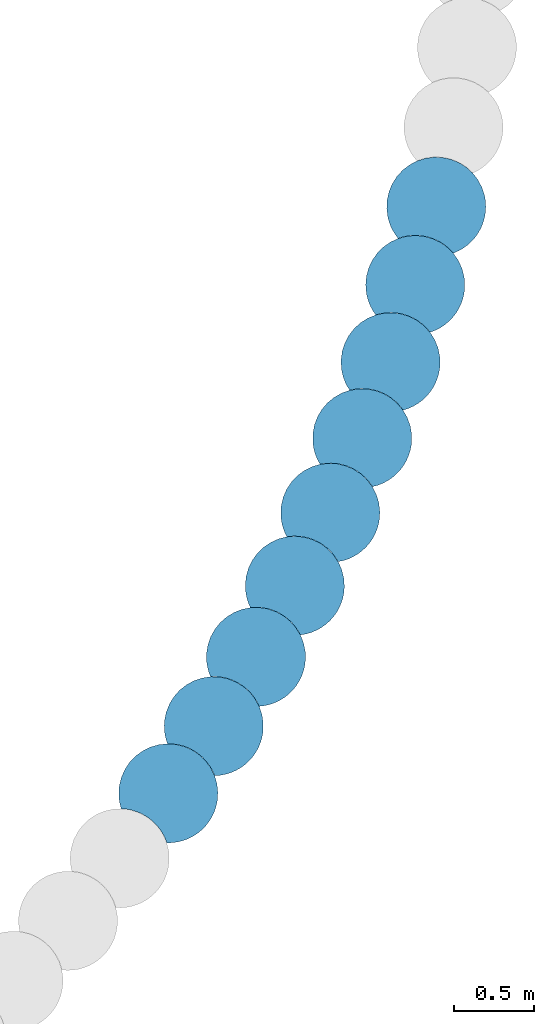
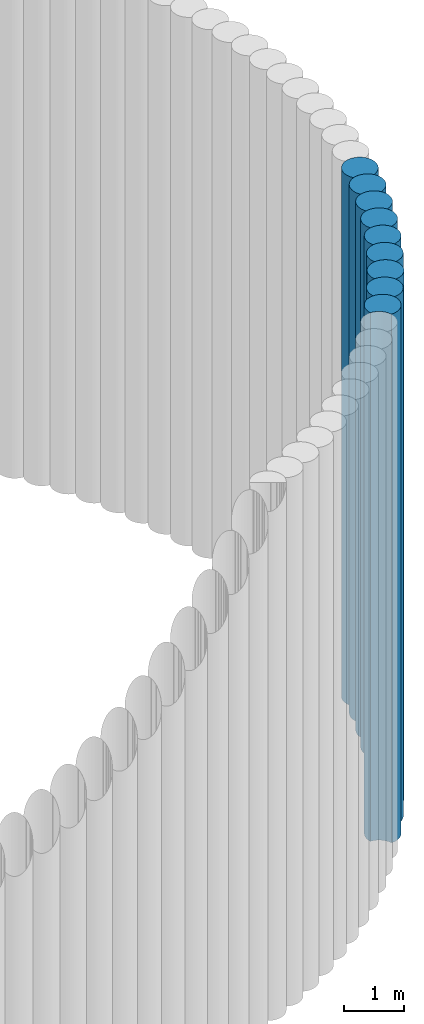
# One storey, part 8 of 16: 9 slabs.
"""IFC2X3 building model written with IfcOpenShell, lengths in centimetres."""

from ifc_helpers import new_model, entity, si_unit, converted_unit, derived_unit, direction, frame, frame_2d, origin, place, context, subcontext, project, spatial, polyline, circle_curve, parameter, trimmed, segment, composite_curve, outline, extrude, material, element, save


model = new_model("IFC2X3")

# Units and contexts
model_context = context("Model", 3, precision=0.001, world=origin(), true_north=direction((6.12303176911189e-17, 1.0)))
body_context = subcontext(model_context, "Body", "Model", "MODEL_VIEW")
ifc_project = project(units=[si_unit("LENGTHUNIT", "METRE", prefix="CENTI"), si_unit("AREAUNIT", "SQUARE_METRE"), si_unit("VOLUMEUNIT", "CUBIC_METRE"), converted_unit("PLANEANGLEUNIT", "DEGREE", entity("IfcRatioMeasure", 0.0174532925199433), si_unit("PLANEANGLEUNIT", "RADIAN"), dimensions=[0, 0, 0, 0, 0, 0, 0]), si_unit("MASSUNIT", "GRAM", prefix="KILO"), derived_unit("MASSDENSITYUNIT", [(si_unit("MASSUNIT", "GRAM", prefix="KILO"), 1), (si_unit("LENGTHUNIT", "METRE"), -3)]), si_unit("TIMEUNIT", "SECOND"), si_unit("FREQUENCYUNIT", "HERTZ"), si_unit("THERMODYNAMICTEMPERATUREUNIT", "DEGREE_CELSIUS"), derived_unit("THERMALTRANSMITTANCEUNIT", [(si_unit("MASSUNIT", "GRAM", prefix="KILO"), 1), (si_unit("THERMODYNAMICTEMPERATUREUNIT", "KELVIN"), -1), (si_unit("TIMEUNIT", "SECOND"), -3)]), derived_unit("VOLUMETRICFLOWRATEUNIT", [(si_unit("LENGTHUNIT", "METRE"), 3), (si_unit("TIMEUNIT", "SECOND"), -1)]), si_unit("ELECTRICCURRENTUNIT", "AMPERE"), si_unit("ELECTRICVOLTAGEUNIT", "VOLT"), si_unit("POWERUNIT", "WATT"), si_unit("FORCEUNIT", "NEWTON", prefix="KILO"), si_unit("ILLUMINANCEUNIT", "LUX"), si_unit("LUMINOUSFLUXUNIT", "LUMEN"), si_unit("LUMINOUSINTENSITYUNIT", "CANDELA"), derived_unit("USERDEFINED", [(si_unit("MASSUNIT", "GRAM", prefix="KILO"), -1), (si_unit("LENGTHUNIT", "METRE"), -2), (si_unit("TIMEUNIT", "SECOND"), 3), (si_unit("LUMINOUSFLUXUNIT", "LUMEN"), 1)]), derived_unit("LINEARVELOCITYUNIT", [(si_unit("LENGTHUNIT", "METRE"), 1), (si_unit("TIMEUNIT", "SECOND"), -1)]), si_unit("PRESSUREUNIT", "PASCAL"), derived_unit("USERDEFINED", [(si_unit("LENGTHUNIT", "METRE"), -2), (si_unit("MASSUNIT", "GRAM", prefix="KILO"), 1), (si_unit("TIMEUNIT", "SECOND"), -2)])], contexts=[model_context])

# Site, building, storey
site_placement = place(None, origin())
site = spatial("IfcSite", under=ifc_project, at=site_placement, Name="Default", CompositionType="ELEMENT")
building_placement = place(site_placement, origin())
building = spatial("IfcBuilding", under=site, at=building_placement, CompositionType="ELEMENT")
storey_placement = place(building_placement, frame((0.0, 0.0, -984.0)))
storey = spatial("IfcBuildingStorey", under=building, at=storey_placement, Name="Niveau Fond de fosse", CompositionType="ELEMENT", Elevation=-984.000000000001)

# Slabs
ifc_material = material(Name="Maçonnerie - Béton coulé sur place")
slab_1_placement = place(storey_placement, origin())
element("IfcSlab", 1, at=slab_1_placement, inside=storey, material=ifc_material, Name="Pieu béton - JBTP:600mm 2", ObjectType="Pieu béton - JBTP:600mm 2", PredefinedType="BASESLAB", context=body_context, shape_type="SweptSolid", body=[
    extrude(outline(composite_curve([segment(trimmed(circle_curve(frame_2d((1.18354648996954, -14.7318661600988), x_axis=(1.0, 0.0)), 30.9999999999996), [parameter(180.0)], [parameter(207.444291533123)], True, "PARAMETER"), True, "CONTINUOUS"), segment(trimmed(circle_curve(frame_2d((-22.223663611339, -59.7464676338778), x_axis=(0.998867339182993, -0.0475819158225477)), 30.9999999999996), [parameter(30.1715642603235)], [parameter(100.334884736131)], True, "PARAMETER"), False, "CONTINUOUS"), segment(trimmed(circle_curve(frame_2d((1.18354648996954, -14.7318661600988), x_axis=(1.0, 0.0)), 30.9999999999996), [parameter(277.607612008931)], [parameter(4.07110999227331e-13)], True, "PARAMETER"), True, "CONTINUOUS"), segment(polyline([(32.183546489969, -14.7318661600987), (31.7068413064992, -9.31628922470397)]), True, "CONTINUOUS"), segment(polyline([(31.7068413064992, -9.31628922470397), (30.2921459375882, -4.06934121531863)]), True, "CONTINUOUS"), segment(polyline([(30.2921459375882, -4.06934121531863), (27.9815446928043, 0.850722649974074)]), True, "CONTINUOUS"), segment(polyline([(27.9815446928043, 0.850722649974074), (24.862554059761, 5.27574740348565)]), True, "CONTINUOUS"), segment(polyline([(24.862554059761, 5.27574740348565), (21.0196407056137, 9.09100869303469)]), True, "CONTINUOUS"), segment(polyline([(21.0196407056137, 9.09100869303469), (16.5713553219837, 12.1793831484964)]), True, "CONTINUOUS"), segment(polyline([(16.5713553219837, 12.1793831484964), (11.6531207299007, 14.4466878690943)]), True, "CONTINUOUS"), segment(polyline([(11.6531207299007, 14.4466878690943), (6.41465294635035, 15.8235838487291)]), True, "CONTINUOUS"), segment(polyline([(6.41465294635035, 15.8235838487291), (1.01547753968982, 16.2676782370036)]), True, "CONTINUOUS"), segment(polyline([(1.01547753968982, 16.2676782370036), (-4.38028118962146, 15.7646561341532)]), True, "CONTINUOUS"), segment(polyline([(-4.38028118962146, 15.7646561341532), (-9.56967916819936, 14.3433490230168)]), True, "CONTINUOUS"), segment(polyline([(-9.56967916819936, 14.3433490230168), (-14.4353628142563, 12.0459170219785)]), True, "CONTINUOUS"), segment(polyline([(-14.4353628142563, 12.0459170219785), (-18.8300295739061, 8.94210209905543)]), True, "CONTINUOUS"), segment(polyline([(-18.8300295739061, 8.94210209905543), (-22.6217091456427, 5.12536940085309)]), True, "CONTINUOUS"), segment(polyline([(-22.6217091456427, 5.12536940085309), (-25.6964633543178, 0.71044813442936)]), True, "CONTINUOUS"), segment(polyline([(-25.6964633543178, 0.71044813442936), (-27.9617477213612, -4.17005640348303)]), True, "CONTINUOUS"), segment(polyline([(-27.9617477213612, -4.17005640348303), (-29.3490361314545, -9.36890070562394)]), True, "CONTINUOUS"), segment(polyline([(-29.3490361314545, -9.36890070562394), (-29.8164535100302, -14.7318661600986)]), True, "CONTINUOUS")], self_intersect=False)), frame((869.56204652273, -603.61211218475, -300.0), z_axis=(0.0, 0.0, 1.0), x_axis=(0.98673094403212, -0.162363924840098, 0.0)), (0.0, 0.0, 1.0), 1084.0),
])
slab_2_placement = place(storey_placement, origin())
element("IfcSlab", 2, at=slab_2_placement, inside=storey, material=ifc_material, Name="Pieu béton - JBTP:600mm 2", ObjectType="Pieu béton - JBTP:600mm 2", PredefinedType="BASESLAB", context=body_context, shape_type="SweptSolid", body=[
    extrude(outline(composite_curve([segment(trimmed(circle_curve(frame_2d((1.18354648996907, -14.731866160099), x_axis=(1.0, 0.0)), 30.9999999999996), [parameter(180.0)], [parameter(207.444291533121)], True, "PARAMETER"), True, "CONTINUOUS"), segment(trimmed(circle_curve(frame_2d((-22.2236636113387, -59.746467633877), x_axis=(0.998867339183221, -0.0475819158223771)), 30.9999999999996), [parameter(30.1715642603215)], [parameter(100.334884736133)], True, "PARAMETER"), False, "CONTINUOUS"), segment(trimmed(circle_curve(frame_2d((1.18354648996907, -14.731866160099), x_axis=(1.0, 0.0)), 30.9999999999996), [parameter(277.607612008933)], [parameter(4.07110999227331e-13)], True, "PARAMETER"), True, "CONTINUOUS"), segment(polyline([(32.1835464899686, -14.731866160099), (31.7068413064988, -9.31628922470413)]), True, "CONTINUOUS"), segment(polyline([(31.7068413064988, -9.31628922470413), (30.2921459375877, -4.06934121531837)]), True, "CONTINUOUS"), segment(polyline([(30.2921459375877, -4.06934121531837), (27.9815446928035, 0.850722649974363)]), True, "CONTINUOUS"), segment(polyline([(27.9815446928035, 0.850722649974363), (24.8625540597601, 5.2757474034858)]), True, "CONTINUOUS"), segment(polyline([(24.8625540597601, 5.2757474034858), (21.019640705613, 9.09100869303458)]), True, "CONTINUOUS"), segment(polyline([(21.019640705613, 9.09100869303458), (16.5713553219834, 12.179383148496)]), True, "CONTINUOUS"), segment(polyline([(16.5713553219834, 12.179383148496), (11.6531207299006, 14.4466878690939)]), True, "CONTINUOUS"), segment(polyline([(11.6531207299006, 14.4466878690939), (6.41465294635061, 15.8235838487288)]), True, "CONTINUOUS"), segment(polyline([(6.41465294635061, 15.8235838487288), (1.01547753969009, 16.2676782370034)]), True, "CONTINUOUS"), segment(polyline([(1.01547753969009, 16.2676782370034), (-4.38028118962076, 15.7646561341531)]), True, "CONTINUOUS"), segment(polyline([(-4.38028118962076, 15.7646561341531), (-9.56967916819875, 14.3433490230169)]), True, "CONTINUOUS"), segment(polyline([(-9.56967916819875, 14.3433490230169), (-14.4353628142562, 12.0459170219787)]), True, "CONTINUOUS"), segment(polyline([(-14.4353628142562, 12.0459170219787), (-18.830029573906, 8.94210209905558)]), True, "CONTINUOUS"), segment(polyline([(-18.830029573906, 8.94210209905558), (-22.6217091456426, 5.12536940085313)]), True, "CONTINUOUS"), segment(polyline([(-22.6217091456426, 5.12536940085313), (-25.6964633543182, 0.710448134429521)]), True, "CONTINUOUS"), segment(polyline([(-25.6964633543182, 0.710448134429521), (-27.9617477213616, -4.17005640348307)]), True, "CONTINUOUS"), segment(polyline([(-27.9617477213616, -4.17005640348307), (-29.3490361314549, -9.36890070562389)]), True, "CONTINUOUS"), segment(polyline([(-29.3490361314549, -9.36890070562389), (-29.8164535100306, -14.7318661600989)]), True, "CONTINUOUS")], self_intersect=False)), frame((897.298148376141, -561.552996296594, -300.0), z_axis=(0.0, 0.0, 1.0), x_axis=(0.993338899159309, -0.115229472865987, 0.0)), (0.0, 0.0, 1.0), 1084.0),
])
slab_3_placement = place(storey_placement, origin())
element("IfcSlab", 3, at=slab_3_placement, inside=storey, material=ifc_material, Name="Pieu béton - JBTP:600mm 2", ObjectType="Pieu béton - JBTP:600mm 2", PredefinedType="BASESLAB", context=body_context, shape_type="SweptSolid", body=[
    extrude(outline(composite_curve([segment(trimmed(circle_curve(frame_2d((1.1835464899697, -14.731866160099), x_axis=(1.0, 0.0)), 30.9999999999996), [parameter(180.0)], [parameter(207.444291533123)], True, "PARAMETER"), True, "CONTINUOUS"), segment(trimmed(circle_curve(frame_2d((-22.2236636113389, -59.7464676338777), x_axis=(0.998867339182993, -0.0475819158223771)), 30.9999999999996), [parameter(30.1715642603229)], [parameter(100.334884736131)], True, "PARAMETER"), False, "CONTINUOUS"), segment(trimmed(circle_curve(frame_2d((1.1835464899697, -14.731866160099), x_axis=(1.0, 0.0)), 30.9999999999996), [parameter(277.607612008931)], [parameter(4.07110999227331e-13)], True, "PARAMETER"), True, "CONTINUOUS"), segment(polyline([(32.1835464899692, -14.731866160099), (31.7068413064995, -9.31628922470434)]), True, "CONTINUOUS"), segment(polyline([(31.7068413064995, -9.31628922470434), (30.2921459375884, -4.06934121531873)]), True, "CONTINUOUS"), segment(polyline([(30.2921459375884, -4.06934121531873), (27.9815446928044, 0.850722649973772)]), True, "CONTINUOUS"), segment(polyline([(27.9815446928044, 0.850722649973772), (24.8625540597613, 5.27574740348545)]), True, "CONTINUOUS"), segment(polyline([(24.8625540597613, 5.27574740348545), (21.0196407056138, 9.09100869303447)]), True, "CONTINUOUS"), segment(polyline([(21.0196407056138, 9.09100869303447), (16.571355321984, 12.179383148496)]), True, "CONTINUOUS"), segment(polyline([(16.571355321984, 12.179383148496), (11.653120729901, 14.446687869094)]), True, "CONTINUOUS"), segment(polyline([(11.653120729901, 14.446687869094), (6.41465294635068, 15.8235838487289)]), True, "CONTINUOUS"), segment(polyline([(6.41465294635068, 15.8235838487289), (1.01547753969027, 16.2676782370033)]), True, "CONTINUOUS"), segment(polyline([(1.01547753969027, 16.2676782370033), (-4.38028118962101, 15.7646561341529)]), True, "CONTINUOUS"), segment(polyline([(-4.38028118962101, 15.7646561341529), (-9.56967916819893, 14.3433490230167)]), True, "CONTINUOUS"), segment(polyline([(-9.56967916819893, 14.3433490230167), (-14.435362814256, 12.0459170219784)]), True, "CONTINUOUS"), segment(polyline([(-14.435362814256, 12.0459170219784), (-18.8300295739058, 8.94210209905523)]), True, "CONTINUOUS"), segment(polyline([(-18.8300295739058, 8.94210209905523), (-22.6217091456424, 5.12536940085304)]), True, "CONTINUOUS"), segment(polyline([(-22.6217091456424, 5.12536940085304), (-25.6964633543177, 0.710448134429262)]), True, "CONTINUOUS"), segment(polyline([(-25.6964633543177, 0.710448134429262), (-27.9617477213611, -4.17005640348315)]), True, "CONTINUOUS"), segment(polyline([(-27.9617477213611, -4.17005640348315), (-29.3490361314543, -9.36890070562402)]), True, "CONTINUOUS"), segment(polyline([(-29.3490361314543, -9.36890070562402), (-29.8164535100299, -14.7318661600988)]), True, "CONTINUOUS")], self_intersect=False)), frame((923.00158132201, -518.221782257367, -300.0), z_axis=(0.0, 0.0, 1.0), x_axis=(0.997696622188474, -0.0678339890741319, 0.0)), (0.0, 0.0, 1.0), 1084.0),
])
slab_4_placement = place(storey_placement, origin())
element("IfcSlab", 4, at=slab_4_placement, inside=storey, material=ifc_material, Name="Pieu béton - JBTP:600mm 2", ObjectType="Pieu béton - JBTP:600mm 2", PredefinedType="BASESLAB", context=body_context, shape_type="SweptSolid", body=[
    extrude(outline(composite_curve([segment(trimmed(circle_curve(frame_2d((1.18354648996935, -14.7318661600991), x_axis=(1.0, 0.0)), 30.9999999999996), [parameter(180.0)], [parameter(207.444291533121)], True, "PARAMETER"), True, "CONTINUOUS"), segment(trimmed(circle_curve(frame_2d((-22.2236636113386, -59.7464676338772), x_axis=(0.998867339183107, -0.0475819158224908)), 30.9999999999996), [parameter(30.1715642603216)], [parameter(100.334884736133)], True, "PARAMETER"), False, "CONTINUOUS"), segment(trimmed(circle_curve(frame_2d((1.18354648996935, -14.7318661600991), x_axis=(1.0, 0.0)), 30.9999999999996), [parameter(277.607612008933)], [parameter(4.07110999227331e-13)], True, "PARAMETER"), True, "CONTINUOUS"), segment(polyline([(32.1835464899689, -14.7318661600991), (31.706841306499, -9.31628922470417)]), True, "CONTINUOUS"), segment(polyline([(31.706841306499, -9.31628922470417), (30.2921459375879, -4.06934121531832)]), True, "CONTINUOUS"), segment(polyline([(30.2921459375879, -4.06934121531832), (27.9815446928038, 0.850722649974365)]), True, "CONTINUOUS"), segment(polyline([(27.9815446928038, 0.850722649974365), (24.8625540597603, 5.27574740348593)]), True, "CONTINUOUS"), segment(polyline([(24.8625540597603, 5.27574740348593), (21.0196407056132, 9.09100869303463)]), True, "CONTINUOUS"), segment(polyline([(21.0196407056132, 9.09100869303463), (16.5713553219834, 12.179383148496)]), True, "CONTINUOUS"), segment(polyline([(16.5713553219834, 12.179383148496), (11.6531207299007, 14.4466878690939)]), True, "CONTINUOUS"), segment(polyline([(11.6531207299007, 14.4466878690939), (6.41465294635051, 15.8235838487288)]), True, "CONTINUOUS"), segment(polyline([(6.41465294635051, 15.8235838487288), (1.01547753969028, 16.2676782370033)]), True, "CONTINUOUS"), segment(polyline([(1.01547753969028, 16.2676782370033), (-4.38028118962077, 15.764656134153)]), True, "CONTINUOUS"), segment(polyline([(-4.38028118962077, 15.764656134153), (-9.56967916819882, 14.3433490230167)]), True, "CONTINUOUS"), segment(polyline([(-9.56967916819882, 14.3433490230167), (-14.4353628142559, 12.0459170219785)]), True, "CONTINUOUS"), segment(polyline([(-14.4353628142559, 12.0459170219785), (-18.8300295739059, 8.9421020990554)]), True, "CONTINUOUS"), segment(polyline([(-18.8300295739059, 8.9421020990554), (-22.6217091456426, 5.1253694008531)]), True, "CONTINUOUS"), segment(polyline([(-22.6217091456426, 5.1253694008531), (-25.6964633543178, 0.710448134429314)]), True, "CONTINUOUS"), segment(polyline([(-25.6964633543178, 0.710448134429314), (-27.9617477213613, -4.17005640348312)]), True, "CONTINUOUS"), segment(polyline([(-27.9617477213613, -4.17005640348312), (-29.3490361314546, -9.36890070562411)]), True, "CONTINUOUS"), segment(polyline([(-29.3490361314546, -9.36890070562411), (-29.8164535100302, -14.731866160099)]), True, "CONTINUOUS")], self_intersect=False)), frame((946.614118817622, -473.716629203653, -300.0), z_axis=(0.0, 0.0, 1.0), x_axis=(0.999794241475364, -0.0202848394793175, 0.0)), (0.0, 0.0, 1.0), 1084.0),
])
slab_5_placement = place(storey_placement, origin())
element("IfcSlab", 5, at=slab_5_placement, inside=storey, material=ifc_material, Name="Pieu béton - JBTP:600mm 2", ObjectType="Pieu béton - JBTP:600mm 2", PredefinedType="BASESLAB", context=body_context, shape_type="SweptSolid", body=[
    extrude(outline(composite_curve([segment(trimmed(circle_curve(frame_2d((1.18354648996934, -14.7318661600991), x_axis=(1.0, 0.0)), 30.9999999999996), [parameter(180.0)], [parameter(207.444291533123)], True, "PARAMETER"), True, "CONTINUOUS"), segment(trimmed(circle_curve(frame_2d((-22.2236636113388, -59.7464676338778), x_axis=(0.998867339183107, -0.047581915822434)), 30.9999999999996), [parameter(30.1715642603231)], [parameter(100.334884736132)], True, "PARAMETER"), False, "CONTINUOUS"), segment(trimmed(circle_curve(frame_2d((1.18354648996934, -14.7318661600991), x_axis=(1.0, 0.0)), 30.9999999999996), [parameter(277.607612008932)], [parameter(4.07110999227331e-13)], True, "PARAMETER"), True, "CONTINUOUS"), segment(polyline([(32.1835464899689, -14.7318661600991), (31.7068413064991, -9.31628922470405)]), True, "CONTINUOUS"), segment(polyline([(31.7068413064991, -9.31628922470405), (30.2921459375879, -4.06934121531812)]), True, "CONTINUOUS"), segment(polyline([(30.2921459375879, -4.06934121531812), (27.9815446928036, 0.850722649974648)]), True, "CONTINUOUS"), segment(polyline([(27.9815446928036, 0.850722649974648), (24.8625540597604, 5.27574740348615)]), True, "CONTINUOUS"), segment(polyline([(24.8625540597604, 5.27574740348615), (21.0196407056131, 9.09100869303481)]), True, "CONTINUOUS"), segment(polyline([(21.0196407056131, 9.09100869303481), (16.5713553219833, 12.1793831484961)]), True, "CONTINUOUS"), segment(polyline([(16.5713553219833, 12.1793831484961), (11.6531207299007, 14.446687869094)]), True, "CONTINUOUS"), segment(polyline([(11.6531207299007, 14.446687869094), (6.41465294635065, 15.8235838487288)]), True, "CONTINUOUS"), segment(polyline([(6.41465294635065, 15.8235838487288), (1.01547753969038, 16.2676782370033)]), True, "CONTINUOUS"), segment(polyline([(1.01547753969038, 16.2676782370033), (-4.38028118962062, 15.764656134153)]), True, "CONTINUOUS"), segment(polyline([(-4.38028118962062, 15.764656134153), (-9.56967916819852, 14.3433490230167)]), True, "CONTINUOUS"), segment(polyline([(-9.56967916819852, 14.3433490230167), (-14.435362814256, 12.0459170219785)]), True, "CONTINUOUS"), segment(polyline([(-14.435362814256, 12.0459170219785), (-18.8300295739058, 8.94210209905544)]), True, "CONTINUOUS"), segment(polyline([(-18.8300295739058, 8.94210209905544), (-22.6217091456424, 5.12536940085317)]), True, "CONTINUOUS"), segment(polyline([(-22.6217091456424, 5.12536940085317), (-25.6964633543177, 0.710448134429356)]), True, "CONTINUOUS"), segment(polyline([(-25.6964633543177, 0.710448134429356), (-27.9617477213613, -4.17005640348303)]), True, "CONTINUOUS"), segment(polyline([(-27.9617477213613, -4.17005640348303), (-29.3490361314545, -9.36890070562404)]), True, "CONTINUOUS"), segment(polyline([(-29.3490361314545, -9.36890070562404), (-29.8164535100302, -14.731866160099)]), True, "CONTINUOUS")], self_intersect=False)), frame((968.082270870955, -428.138355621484, -300.0), z_axis=(0.0, 0.0, 1.0), x_axis=(0.999627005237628, 0.0273102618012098, 0.0)), (0.0, 0.0, 1.0), 1084.0),
])
slab_6_placement = place(storey_placement, origin())
element("IfcSlab", 6, at=slab_6_placement, inside=storey, material=ifc_material, Name="Pieu béton - JBTP:600mm 2", ObjectType="Pieu béton - JBTP:600mm 2", PredefinedType="BASESLAB", context=body_context, shape_type="SweptSolid", body=[
    extrude(outline(composite_curve([segment(trimmed(circle_curve(frame_2d((1.18354648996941, -14.731866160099), x_axis=(1.0, 0.0)), 30.9999999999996), [parameter(180.0)], [parameter(207.444291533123)], True, "PARAMETER"), True, "CONTINUOUS"), segment(trimmed(circle_curve(frame_2d((-22.2236636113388, -59.7464676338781), x_axis=(0.998867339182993, -0.0475819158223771)), 30.9999999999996), [parameter(30.1715642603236)], [parameter(100.334884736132)], True, "PARAMETER"), False, "CONTINUOUS"), segment(trimmed(circle_curve(frame_2d((1.18354648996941, -14.731866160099), x_axis=(1.0, 0.0)), 30.9999999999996), [parameter(277.607612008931)], [parameter(4.07110999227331e-13)], True, "PARAMETER"), True, "CONTINUOUS"), segment(polyline([(32.1835464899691, -14.731866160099), (31.7068413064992, -9.31628922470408)]), True, "CONTINUOUS"), segment(polyline([(31.7068413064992, -9.31628922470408), (30.292145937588, -4.06934121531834)]), True, "CONTINUOUS"), segment(polyline([(30.292145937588, -4.06934121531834), (27.9815446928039, 0.850722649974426)]), True, "CONTINUOUS"), segment(polyline([(27.9815446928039, 0.850722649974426), (24.8625540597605, 5.27574740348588)]), True, "CONTINUOUS"), segment(polyline([(24.8625540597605, 5.27574740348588), (21.0196407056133, 9.09100869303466)]), True, "CONTINUOUS"), segment(polyline([(21.0196407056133, 9.09100869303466), (16.5713553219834, 12.179383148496)]), True, "CONTINUOUS"), segment(polyline([(16.5713553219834, 12.179383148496), (11.6531207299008, 14.446687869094)]), True, "CONTINUOUS"), segment(polyline([(11.6531207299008, 14.446687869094), (6.41465294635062, 15.8235838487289)]), True, "CONTINUOUS"), segment(polyline([(6.41465294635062, 15.8235838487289), (1.0154775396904, 16.2676782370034)]), True, "CONTINUOUS"), segment(polyline([(1.0154775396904, 16.2676782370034), (-4.38028118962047, 15.7646561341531)]), True, "CONTINUOUS"), segment(polyline([(-4.38028118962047, 15.7646561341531), (-9.56967916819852, 14.3433490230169)]), True, "CONTINUOUS"), segment(polyline([(-9.56967916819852, 14.3433490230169), (-14.4353628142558, 12.0459170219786)]), True, "CONTINUOUS"), segment(polyline([(-14.4353628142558, 12.0459170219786), (-18.8300295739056, 8.94210209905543)]), True, "CONTINUOUS"), segment(polyline([(-18.8300295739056, 8.94210209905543), (-22.6217091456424, 5.12536940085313)]), True, "CONTINUOUS"), segment(polyline([(-22.6217091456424, 5.12536940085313), (-25.6964633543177, 0.710448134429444)]), True, "CONTINUOUS"), segment(polyline([(-25.6964633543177, 0.710448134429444), (-27.9617477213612, -4.17005640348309)]), True, "CONTINUOUS"), segment(polyline([(-27.9617477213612, -4.17005640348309), (-29.3490361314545, -9.36890070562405)]), True, "CONTINUOUS"), segment(polyline([(-29.3490361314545, -9.36890070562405), (-29.81645351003, -14.731866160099)]), True, "CONTINUOUS")], self_intersect=False)), frame((987.357405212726, -381.590210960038, -300.0), z_axis=(0.0, 0.0, 1.0), x_axis=(0.997195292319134, 0.0748434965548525, 0.0)), (0.0, 0.0, 1.0), 1084.0),
])
slab_7_placement = place(storey_placement, origin())
element("IfcSlab", 7, at=slab_7_placement, inside=storey, material=ifc_material, Name="Pieu béton - JBTP:600mm 2", ObjectType="Pieu béton - JBTP:600mm 2", PredefinedType="BASESLAB", context=body_context, shape_type="SweptSolid", body=[
    extrude(outline(composite_curve([segment(trimmed(circle_curve(frame_2d((1.1835464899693, -14.7318661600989), x_axis=(1.0, 0.0)), 30.9999999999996), [parameter(180.0)], [parameter(207.444291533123)], True, "PARAMETER"), True, "CONTINUOUS"), segment(trimmed(circle_curve(frame_2d((-22.223663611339, -59.7464676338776), x_axis=(0.998867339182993, -0.047581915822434)), 30.9999999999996), [parameter(30.171564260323)], [parameter(100.334884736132)], True, "PARAMETER"), False, "CONTINUOUS"), segment(trimmed(circle_curve(frame_2d((1.1835464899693, -14.7318661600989), x_axis=(1.0, 0.0)), 30.9999999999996), [parameter(277.607612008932)], [parameter(4.07110999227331e-13)], True, "PARAMETER"), True, "CONTINUOUS"), segment(polyline([(32.1835464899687, -14.7318661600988), (31.706841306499, -9.31628922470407)]), True, "CONTINUOUS"), segment(polyline([(31.706841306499, -9.31628922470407), (30.2921459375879, -4.06934121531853)]), True, "CONTINUOUS"), segment(polyline([(30.2921459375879, -4.06934121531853), (27.981544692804, 0.850722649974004)]), True, "CONTINUOUS"), segment(polyline([(27.981544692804, 0.850722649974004), (24.8625540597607, 5.27574740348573)]), True, "CONTINUOUS"), segment(polyline([(24.8625540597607, 5.27574740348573), (21.0196407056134, 9.09100869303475)]), True, "CONTINUOUS"), segment(polyline([(21.0196407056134, 9.09100869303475), (16.5713553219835, 12.1793831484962)]), True, "CONTINUOUS"), segment(polyline([(16.5713553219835, 12.1793831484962), (11.6531207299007, 14.4466878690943)]), True, "CONTINUOUS"), segment(polyline([(11.6531207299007, 14.4466878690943), (6.41465294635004, 15.8235838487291)]), True, "CONTINUOUS"), segment(polyline([(6.41465294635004, 15.8235838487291), (1.0154775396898, 16.2676782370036)]), True, "CONTINUOUS"), segment(polyline([(1.0154775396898, 16.2676782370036), (-4.3802811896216, 15.7646561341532)]), True, "CONTINUOUS"), segment(polyline([(-4.3802811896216, 15.7646561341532), (-9.56967916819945, 14.3433490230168)]), True, "CONTINUOUS"), segment(polyline([(-9.56967916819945, 14.3433490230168), (-14.4353628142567, 12.0459170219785)]), True, "CONTINUOUS"), segment(polyline([(-14.4353628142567, 12.0459170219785), (-18.830029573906, 8.94210209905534)]), True, "CONTINUOUS"), segment(polyline([(-18.830029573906, 8.94210209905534), (-22.6217091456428, 5.12536940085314)]), True, "CONTINUOUS"), segment(polyline([(-22.6217091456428, 5.12536940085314), (-25.6964633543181, 0.710448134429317)]), True, "CONTINUOUS"), segment(polyline([(-25.6964633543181, 0.710448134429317), (-27.9617477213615, -4.17005640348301)]), True, "CONTINUOUS"), segment(polyline([(-27.9617477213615, -4.17005640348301), (-29.3490361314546, -9.36890070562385)]), True, "CONTINUOUS"), segment(polyline([(-29.3490361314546, -9.36890070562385), (-29.8164535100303, -14.7318661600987)]), True, "CONTINUOUS")], self_intersect=False)), frame((1004.39585746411, -334.177641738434, -300.0), z_axis=(0.0, 0.0, 1.0), x_axis=(0.992504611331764, 0.122207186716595, 0.0)), (0.0, 0.0, 1.0), 1084.0),
])
slab_8_placement = place(storey_placement, origin())
element("IfcSlab", 8, at=slab_8_placement, inside=storey, material=ifc_material, Name="Pieu béton - JBTP:600mm 2", ObjectType="Pieu béton - JBTP:600mm 2", PredefinedType="BASESLAB", context=body_context, shape_type="SweptSolid", body=[
    extrude(outline(composite_curve([segment(trimmed(circle_curve(frame_2d((1.18354648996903, -14.7318661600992), x_axis=(1.0, 0.0)), 30.9999999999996), [parameter(180.0)], [parameter(207.444291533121)], True, "PARAMETER"), True, "CONTINUOUS"), segment(trimmed(circle_curve(frame_2d((-22.2236636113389, -59.7464676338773), x_axis=(0.998867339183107, -0.047581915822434)), 30.9999999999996), [parameter(30.1715642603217)], [parameter(100.334884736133)], True, "PARAMETER"), False, "CONTINUOUS"), segment(trimmed(circle_curve(frame_2d((1.18354648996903, -14.7318661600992), x_axis=(1.0, 0.0)), 30.9999999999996), [parameter(277.607612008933)], [parameter(4.07110999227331e-13)], True, "PARAMETER"), True, "CONTINUOUS"), segment(polyline([(32.1835464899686, -14.7318661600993), (31.7068413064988, -9.31628922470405)]), True, "CONTINUOUS"), segment(polyline([(31.7068413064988, -9.31628922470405), (30.2921459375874, -4.069341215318)]), True, "CONTINUOUS"), segment(polyline([(30.2921459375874, -4.069341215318), (27.981544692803, 0.850722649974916)]), True, "CONTINUOUS"), segment(polyline([(27.981544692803, 0.850722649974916), (24.8625540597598, 5.27574740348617)]), True, "CONTINUOUS"), segment(polyline([(24.8625540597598, 5.27574740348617), (21.0196407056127, 9.09100869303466)]), True, "CONTINUOUS"), segment(polyline([(21.0196407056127, 9.09100869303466), (16.5713553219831, 12.1793831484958)]), True, "CONTINUOUS"), segment(polyline([(16.5713553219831, 12.1793831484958), (11.6531207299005, 14.4466878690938)]), True, "CONTINUOUS"), segment(polyline([(11.6531207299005, 14.4466878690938), (6.41465294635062, 15.8235838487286)]), True, "CONTINUOUS"), segment(polyline([(6.41465294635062, 15.8235838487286), (1.01547753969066, 16.2676782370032)]), True, "CONTINUOUS"), segment(polyline([(1.01547753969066, 16.2676782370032), (-4.38028118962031, 15.764656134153)]), True, "CONTINUOUS"), segment(polyline([(-4.38028118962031, 15.764656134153), (-9.5696791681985, 14.3433490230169)]), True, "CONTINUOUS"), segment(polyline([(-9.5696791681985, 14.3433490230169), (-14.4353628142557, 12.0459170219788)]), True, "CONTINUOUS"), segment(polyline([(-14.4353628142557, 12.0459170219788), (-18.830029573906, 8.94210209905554)]), True, "CONTINUOUS"), segment(polyline([(-18.830029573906, 8.94210209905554), (-22.6217091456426, 5.12536940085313)]), True, "CONTINUOUS"), segment(polyline([(-22.6217091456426, 5.12536940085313), (-25.6964633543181, 0.710448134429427)]), True, "CONTINUOUS"), segment(polyline([(-25.6964633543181, 0.710448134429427), (-27.9617477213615, -4.17005640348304)]), True, "CONTINUOUS"), segment(polyline([(-27.9617477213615, -4.17005640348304), (-29.3490361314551, -9.36890070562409)]), True, "CONTINUOUS"), segment(polyline([(-29.3490361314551, -9.36890070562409), (-29.8164535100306, -14.7318661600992)]), True, "CONTINUOUS")], self_intersect=False)), frame((1019.15903005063, -286.008052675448, -300.0), z_axis=(0.0, 0.0, 1.0), x_axis=(0.985565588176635, 0.169294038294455, 0.0)), (0.0, 0.0, 1.0), 1084.0),
])
slab_9_placement = place(storey_placement, origin())
element("IfcSlab", 9, at=slab_9_placement, inside=storey, material=ifc_material, Name="Pieu béton - JBTP:600mm 2", ObjectType="Pieu béton - JBTP:600mm 2", PredefinedType="BASESLAB", context=body_context, shape_type="SweptSolid", body=[
    extrude(outline(composite_curve([segment(trimmed(circle_curve(frame_2d((1.18354648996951, -14.7318661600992), x_axis=(1.0, 0.0)), 30.9999999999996), [parameter(180.0)], [parameter(207.444291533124)], True, "PARAMETER"), True, "CONTINUOUS"), segment(trimmed(circle_curve(frame_2d((-22.223663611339, -59.7464676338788), x_axis=(0.998867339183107, -0.047581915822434)), 30.9999999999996), [parameter(30.1715642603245)], [parameter(100.334884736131)], True, "PARAMETER"), False, "CONTINUOUS"), segment(trimmed(circle_curve(frame_2d((1.18354648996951, -14.7318661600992), x_axis=(1.0, 0.0)), 30.9999999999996), [parameter(277.60761200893)], [parameter(4.07110999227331e-13)], True, "PARAMETER"), True, "CONTINUOUS"), segment(polyline([(32.1835464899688, -14.7318661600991), (31.706841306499, -9.31628922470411)]), True, "CONTINUOUS"), segment(polyline([(31.706841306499, -9.31628922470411), (30.2921459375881, -4.06934121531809)]), True, "CONTINUOUS"), segment(polyline([(30.2921459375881, -4.06934121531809), (27.9815446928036, 0.850722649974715)]), True, "CONTINUOUS"), segment(polyline([(27.9815446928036, 0.850722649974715), (24.8625540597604, 5.27574740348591)]), True, "CONTINUOUS"), segment(polyline([(24.8625540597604, 5.27574740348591), (21.0196407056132, 9.09100869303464)]), True, "CONTINUOUS"), segment(polyline([(21.0196407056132, 9.09100869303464), (16.5713553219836, 12.1793831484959)]), True, "CONTINUOUS"), segment(polyline([(16.5713553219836, 12.1793831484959), (11.6531207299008, 14.4466878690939)]), True, "CONTINUOUS"), segment(polyline([(11.6531207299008, 14.4466878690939), (6.4146529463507, 15.8235838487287)]), True, "CONTINUOUS"), segment(polyline([(6.4146529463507, 15.8235838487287), (1.01547753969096, 16.2676782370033)]), True, "CONTINUOUS"), segment(polyline([(1.01547753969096, 16.2676782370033), (-4.38028118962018, 15.7646561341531)]), True, "CONTINUOUS"), segment(polyline([(-4.38028118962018, 15.7646561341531), (-9.56967916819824, 14.3433490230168)]), True, "CONTINUOUS"), segment(polyline([(-9.56967916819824, 14.3433490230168), (-14.4353628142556, 12.0459170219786)]), True, "CONTINUOUS"), segment(polyline([(-14.4353628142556, 12.0459170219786), (-18.8300295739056, 8.94210209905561)]), True, "CONTINUOUS"), segment(polyline([(-18.8300295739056, 8.94210209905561), (-22.6217091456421, 5.12536940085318)]), True, "CONTINUOUS"), segment(polyline([(-22.6217091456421, 5.12536940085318), (-25.6964633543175, 0.710448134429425)]), True, "CONTINUOUS"), segment(polyline([(-25.6964633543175, 0.710448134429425), (-27.9617477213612, -4.17005640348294)]), True, "CONTINUOUS"), segment(polyline([(-27.9617477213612, -4.17005640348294), (-29.3490361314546, -9.36890070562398)]), True, "CONTINUOUS"), segment(polyline([(-29.3490361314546, -9.36890070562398), (-29.8164535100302, -14.731866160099)]), True, "CONTINUOUS")], self_intersect=False)), frame((1031.61347963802, -237.190563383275, -300.0), z_axis=(0.0, 0.0, 1.0), x_axis=(0.976393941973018, 0.215997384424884, 0.0)), (0.0, 0.0, 1.0), 1084.0),
])

save(model, "model.ifc")
